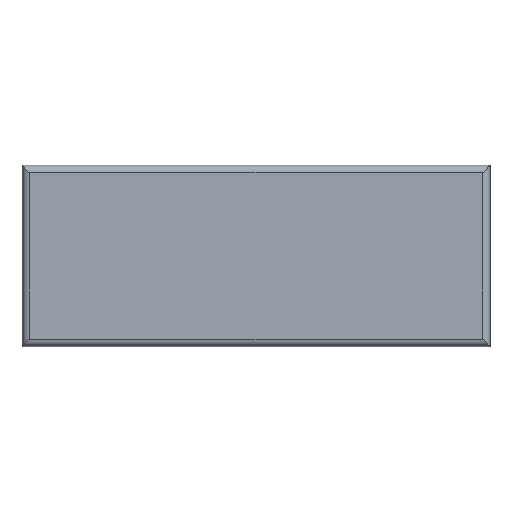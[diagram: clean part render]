
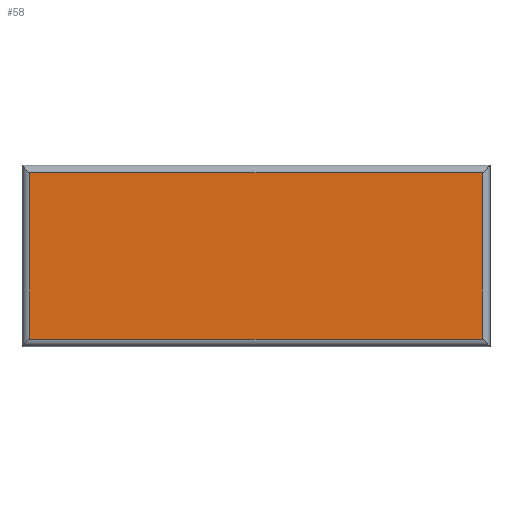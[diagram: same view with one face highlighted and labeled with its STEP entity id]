
A CAD part, top view. The second image highlights one B-rep face of the part: STEP entity #58.
In plain terms, the highlighted planar face has unit normal (0, 0, 1).
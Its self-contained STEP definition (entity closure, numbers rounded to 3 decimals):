
#58=ADVANCED_FACE('',(#112),#114,.T.);
#112=FACE_BOUND('',#113,.T.);
#113=EDGE_LOOP('',(#154,#155,#156,#157));
#114=PLANE('',#115);
#115=AXIS2_PLACEMENT_3D('',#116,#117,#118);
#116=CARTESIAN_POINT('',(0.,0.,1.));
#117=DIRECTION('',(0.,0.,1.));
#118=DIRECTION('',(1.,0.,0.));
#154=ORIENTED_EDGE('',*,*,#178,.T.);
#155=ORIENTED_EDGE('',*,*,#179,.T.);
#156=ORIENTED_EDGE('',*,*,#180,.T.);
#157=ORIENTED_EDGE('',*,*,#181,.T.);
#178=EDGE_CURVE('',#190,#191,#192,.T.);
#179=EDGE_CURVE('',#191,#193,#194,.T.);
#180=EDGE_CURVE('',#193,#195,#196,.T.);
#181=EDGE_CURVE('',#195,#190,#197,.T.);
#190=VERTEX_POINT('',#210);
#191=VERTEX_POINT('',#211);
#192=LINE('',#212,#213);
#193=VERTEX_POINT('',#215);
#194=LINE('',#216,#217);
#195=VERTEX_POINT('',#219);
#196=LINE('',#220,#221);
#197=LINE('',#223,#224);
#210=CARTESIAN_POINT('',(4.,-26.,1.));
#211=CARTESIAN_POINT('',(64.,-26.,1.));
#212=CARTESIAN_POINT('',(4.,-26.,1.));
#213=VECTOR('',#214,1.);
#214=DIRECTION('',(1.,0.,0.));
#215=CARTESIAN_POINT('',(64.,-4.,1.));
#216=CARTESIAN_POINT('',(64.,-26.,1.));
#217=VECTOR('',#218,1.);
#218=DIRECTION('',(0.,1.,0.));
#219=CARTESIAN_POINT('',(4.,-4.,1.));
#220=CARTESIAN_POINT('',(64.,-4.,1.));
#221=VECTOR('',#222,1.);
#222=DIRECTION('',(-1.,0.,0.));
#223=CARTESIAN_POINT('',(4.,-4.,1.));
#224=VECTOR('',#225,1.);
#225=DIRECTION('',(0.,-1.,0.));
